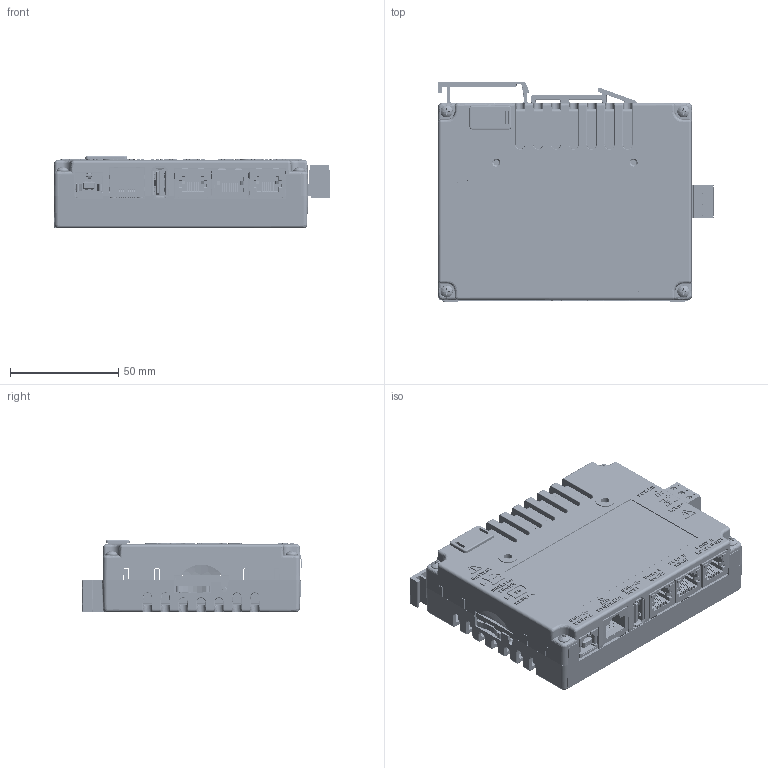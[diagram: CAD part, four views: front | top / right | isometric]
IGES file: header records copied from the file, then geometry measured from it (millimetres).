
Start section: C
Global section: file name: DA30D.igs; native system: By Siemens PLM Incorporated; preprocessor: XPlus GENERIC/IGES 21.0.46; author: Author; organization: Title; date: 20190110.120839; units: millimetre
Bounding box: 127.68 x 101.4 x 33.27 mm (x, y, z)
Surface area: 150400.8 mm2 (no closed solid volume)
Topology: 0 solids, 0 shells, 13041 faces, 80753 edges, 80724 vertices
Faces by surface type: bspline 13041
